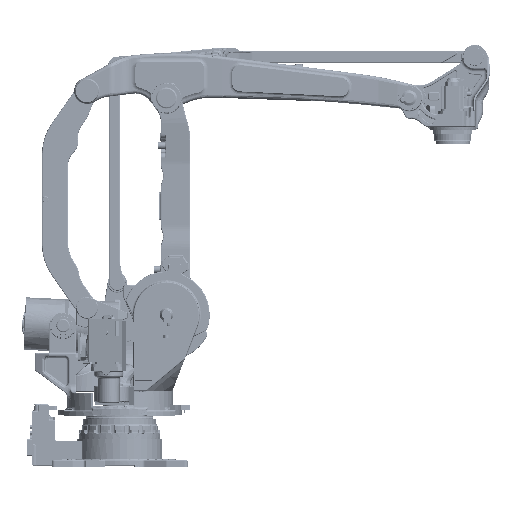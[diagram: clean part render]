
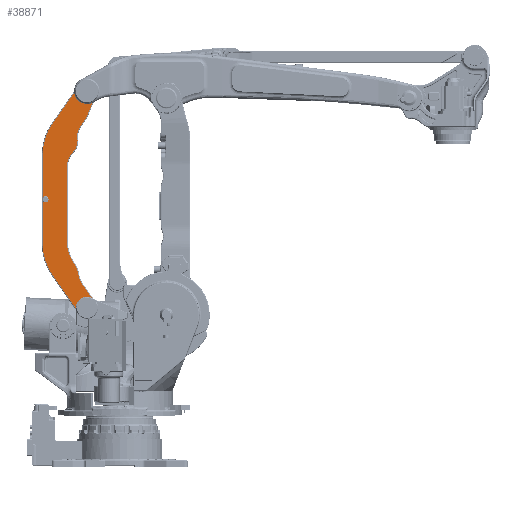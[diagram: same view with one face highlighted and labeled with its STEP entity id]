
A CAD part, front view. The second image highlights one B-rep face of the part: STEP entity #38871.
In plain terms, the highlighted planar face has unit normal (0, -1, 0).
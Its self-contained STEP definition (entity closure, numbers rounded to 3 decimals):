
#24446=LINE('',#293470,#31450);
#24447=LINE('',#293474,#31451);
#24448=LINE('',#293475,#31452);
#24449=LINE('',#293479,#31453);
#24450=LINE('',#293483,#31454);
#24451=LINE('',#293487,#31455);
#24452=LINE('',#293497,#31456);
#24453=LINE('',#293501,#31457);
#24454=LINE('',#293505,#31458);
#24455=LINE('',#293509,#31459);
#31450=VECTOR('',#182117,1.);
#31451=VECTOR('',#182120,1.);
#31452=VECTOR('',#182121,1.);
#31453=VECTOR('',#182124,1.);
#31454=VECTOR('',#182127,1.);
#31455=VECTOR('',#182130,1.);
#31456=VECTOR('',#182139,1.);
#31457=VECTOR('',#182142,1.);
#31458=VECTOR('',#182145,1.);
#31459=VECTOR('',#182148,1.);
#38871=ADVANCED_FACE('',(#48841),#43140,.F.);
#43140=PLANE('',#152239);
#48841=FACE_OUTER_BOUND('',#57070,.T.);
#57070=EDGE_LOOP('',(#86979,#86980,#86981,#86982,#86983,#86984,#86985,#86986,
#86987,#86988,#86989,#86990,#86991,#86992,#86993,#86994,#86995,#86996,#86997,
#86998,#86999,#87000,#87001,#87002));
#86979=ORIENTED_EDGE('',*,*,#126979,.T.);
#86980=ORIENTED_EDGE('',*,*,#126980,.T.);
#86981=ORIENTED_EDGE('',*,*,#126981,.F.);
#86982=ORIENTED_EDGE('',*,*,#126982,.T.);
#86983=ORIENTED_EDGE('',*,*,#126983,.T.);
#86984=ORIENTED_EDGE('',*,*,#126978,.T.);
#86985=ORIENTED_EDGE('',*,*,#126984,.T.);
#86986=ORIENTED_EDGE('',*,*,#126985,.T.);
#86987=ORIENTED_EDGE('',*,*,#126986,.T.);
#86988=ORIENTED_EDGE('',*,*,#126987,.T.);
#86989=ORIENTED_EDGE('',*,*,#126988,.T.);
#86990=ORIENTED_EDGE('',*,*,#126989,.T.);
#86991=ORIENTED_EDGE('',*,*,#126990,.F.);
#86992=ORIENTED_EDGE('',*,*,#126991,.T.);
#86993=ORIENTED_EDGE('',*,*,#126992,.T.);
#86994=ORIENTED_EDGE('',*,*,#126993,.T.);
#86995=ORIENTED_EDGE('',*,*,#126994,.T.);
#86996=ORIENTED_EDGE('',*,*,#126995,.T.);
#86997=ORIENTED_EDGE('',*,*,#126996,.T.);
#86998=ORIENTED_EDGE('',*,*,#126997,.T.);
#86999=ORIENTED_EDGE('',*,*,#126998,.T.);
#87000=ORIENTED_EDGE('',*,*,#126999,.T.);
#87001=ORIENTED_EDGE('',*,*,#127000,.T.);
#87002=ORIENTED_EDGE('',*,*,#127001,.F.);
#109245=VERTEX_POINT('',#293453);
#109248=VERTEX_POINT('',#293462);
#109249=VERTEX_POINT('',#293466);
#109250=VERTEX_POINT('',#293467);
#109251=VERTEX_POINT('',#293469);
#109252=VERTEX_POINT('',#293471);
#109253=VERTEX_POINT('',#293473);
#109254=VERTEX_POINT('',#293476);
#109255=VERTEX_POINT('',#293478);
#109256=VERTEX_POINT('',#293480);
#109257=VERTEX_POINT('',#293482);
#109258=VERTEX_POINT('',#293484);
#109259=VERTEX_POINT('',#293486);
#109260=VERTEX_POINT('',#293488);
#109261=VERTEX_POINT('',#293490);
#109262=VERTEX_POINT('',#293492);
#109263=VERTEX_POINT('',#293494);
#109264=VERTEX_POINT('',#293496);
#109265=VERTEX_POINT('',#293498);
#109266=VERTEX_POINT('',#293500);
#109267=VERTEX_POINT('',#293502);
#109268=VERTEX_POINT('',#293504);
#109269=VERTEX_POINT('',#293506);
#109270=VERTEX_POINT('',#293508);
#126978=EDGE_CURVE('',#109245,#109248,#139376,.T.);
#126979=EDGE_CURVE('',#109249,#109250,#139377,.T.);
#126980=EDGE_CURVE('',#109250,#109251,#139378,.T.);
#126981=EDGE_CURVE('',#109252,#109251,#24446,.T.);
#126982=EDGE_CURVE('',#109252,#109253,#139379,.T.);
#126983=EDGE_CURVE('',#109253,#109245,#24447,.T.);
#126984=EDGE_CURVE('',#109248,#109254,#24448,.T.);
#126985=EDGE_CURVE('',#109254,#109255,#139380,.T.);
#126986=EDGE_CURVE('',#109255,#109256,#24449,.T.);
#126987=EDGE_CURVE('',#109256,#109257,#139381,.T.);
#126988=EDGE_CURVE('',#109257,#109258,#24450,.T.);
#126989=EDGE_CURVE('',#109258,#109259,#139382,.T.);
#126990=EDGE_CURVE('',#109260,#109259,#24451,.T.);
#126991=EDGE_CURVE('',#109260,#109261,#139383,.T.);
#126992=EDGE_CURVE('',#109261,#109262,#139384,.T.);
#126993=EDGE_CURVE('',#109262,#109263,#139385,.T.);
#126994=EDGE_CURVE('',#109263,#109264,#139386,.T.);
#126995=EDGE_CURVE('',#109264,#109265,#24452,.T.);
#126996=EDGE_CURVE('',#109265,#109266,#139387,.T.);
#126997=EDGE_CURVE('',#109266,#109267,#24453,.T.);
#126998=EDGE_CURVE('',#109267,#109268,#139388,.T.);
#126999=EDGE_CURVE('',#109268,#109269,#24454,.T.);
#127000=EDGE_CURVE('',#109269,#109270,#139389,.T.);
#127001=EDGE_CURVE('',#109249,#109270,#24455,.T.);
#139376=CIRCLE('',#152224,64.);
#139377=CIRCLE('',#152226,18.);
#139378=CIRCLE('',#152227,18.);
#139379=CIRCLE('',#152228,305.);
#139380=CIRCLE('',#152229,105.);
#139381=CIRCLE('',#152230,95.);
#139382=CIRCLE('',#152231,205.);
#139383=CIRCLE('',#152232,105.);
#139384=CIRCLE('',#152233,95.);
#139385=CIRCLE('',#152234,95.);
#139386=CIRCLE('',#152235,105.);
#139387=CIRCLE('',#152236,95.);
#139388=CIRCLE('',#152237,64.);
#139389=CIRCLE('',#152238,305.);
#152224=AXIS2_PLACEMENT_3D('',#293463,#182109,#182110);
#152226=AXIS2_PLACEMENT_3D('',#293465,#182113,#182114);
#152227=AXIS2_PLACEMENT_3D('',#293468,#182115,#182116);
#152228=AXIS2_PLACEMENT_3D('',#293472,#182118,#182119);
#152229=AXIS2_PLACEMENT_3D('',#293477,#182122,#182123);
#152230=AXIS2_PLACEMENT_3D('',#293481,#182125,#182126);
#152231=AXIS2_PLACEMENT_3D('',#293485,#182128,#182129);
#152232=AXIS2_PLACEMENT_3D('',#293489,#182131,#182132);
#152233=AXIS2_PLACEMENT_3D('',#293491,#182133,#182134);
#152234=AXIS2_PLACEMENT_3D('',#293493,#182135,#182136);
#152235=AXIS2_PLACEMENT_3D('',#293495,#182137,#182138);
#152236=AXIS2_PLACEMENT_3D('',#293499,#182140,#182141);
#152237=AXIS2_PLACEMENT_3D('',#293503,#182143,#182144);
#152238=AXIS2_PLACEMENT_3D('',#293507,#182146,#182147);
#152239=AXIS2_PLACEMENT_3D('',#293510,#182149,#182150);
#182109=DIRECTION('',(0.,1.,0.));
#182110=DIRECTION('',(-0.997,0.,-0.074));
#182113=DIRECTION('',(0.,1.,0.));
#182114=DIRECTION('',(-0.833,0.,0.553));
#182115=DIRECTION('',(0.,1.,0.));
#182116=DIRECTION('',(1.,0.,0.));
#182117=DIRECTION('',(0.,0.,1.));
#182118=DIRECTION('',(0.,-1.,0.));
#182119=DIRECTION('',(-1.,0.,0.));
#182120=DIRECTION('',(0.574,0.,-0.819));
#182121=DIRECTION('',(-0.574,0.,0.819));
#182122=DIRECTION('',(0.,1.,0.));
#182123=DIRECTION('',(-0.819,0.,-0.574));
#182124=DIRECTION('',(-0.228,0.,0.974));
#182125=DIRECTION('',(0.,-1.,0.));
#182126=DIRECTION('',(0.974,0.,0.228));
#182127=DIRECTION('',(-0.574,0.,0.819));
#182128=DIRECTION('',(0.,1.,0.));
#182129=DIRECTION('',(-0.819,0.,-0.574));
#182130=DIRECTION('',(0.,0.,-1.));
#182131=DIRECTION('',(0.,1.,0.));
#182132=DIRECTION('',(-1.,0.,0.));
#182133=DIRECTION('',(0.,-1.,0.));
#182134=DIRECTION('',(0.7,0.,-0.714));
#182135=DIRECTION('',(0.,-1.,0.));
#182136=DIRECTION('',(1.,0.,0.));
#182137=DIRECTION('',(0.,1.,0.));
#182138=DIRECTION('',(-0.992,0.,-0.125));
#182139=DIRECTION('',(0.574,0.,0.819));
#182140=DIRECTION('',(0.,-1.,0.));
#182141=DIRECTION('',(0.819,0.,-0.574));
#182142=DIRECTION('',(0.382,0.,0.924));
#182143=DIRECTION('',(0.,1.,0.));
#182144=DIRECTION('',(0.599,0.,-0.801));
#182145=DIRECTION('',(-0.574,0.,-0.819));
#182146=DIRECTION('',(0.,-1.,0.));
#182147=DIRECTION('',(-0.819,0.,0.574));
#182148=DIRECTION('',(0.,0.,1.));
#182149=DIRECTION('',(0.,1.,0.));
#182150=DIRECTION('',(1.,0.,0.));
#293453=CARTESIAN_POINT('',(-252.074,-113.5,915.353));
#293462=CARTESIAN_POINT('',(-161.967,-113.5,978.446));
#293463=CARTESIAN_POINT('',(-188.25,-113.5,920.092));
#293465=CARTESIAN_POINT('',(-428.25,-113.5,1545.092));
#293466=CARTESIAN_POINT('',(-443.25,-113.5,1555.042));
#293467=CARTESIAN_POINT('',(-410.25,-113.5,1545.092));
#293468=CARTESIAN_POINT('',(-428.25,-113.5,1545.092));
#293469=CARTESIAN_POINT('',(-443.25,-113.5,1535.142));
#293470=CARTESIAN_POINT('',(-443.25,-113.5,1284.546));
#293471=CARTESIAN_POINT('',(-443.25,-113.5,1284.546));
#293472=CARTESIAN_POINT('',(-138.25,-113.5,1284.546));
#293473=CARTESIAN_POINT('',(-388.091,-113.5,1109.605));
#293474=CARTESIAN_POINT('',(-388.091,-113.5,1109.605));
#293475=CARTESIAN_POINT('',(-161.967,-113.5,978.446));
#293476=CARTESIAN_POINT('',(-218.187,-113.5,1058.736));
#293477=CARTESIAN_POINT('',(-132.176,-113.5,1118.961));
#293478=CARTESIAN_POINT('',(-234.402,-113.5,1094.987));
#293479=CARTESIAN_POINT('',(-234.402,-113.5,1094.987));
#293480=CARTESIAN_POINT('',(-244.051,-113.5,1136.132));
#293481=CARTESIAN_POINT('',(-336.542,-113.5,1114.441));
#293482=CARTESIAN_POINT('',(-258.722,-113.5,1168.93));
#293483=CARTESIAN_POINT('',(-258.722,-113.5,1168.93));
#293484=CARTESIAN_POINT('',(-266.176,-113.5,1179.575));
#293485=CARTESIAN_POINT('',(-98.25,-113.5,1297.158));
#293486=CARTESIAN_POINT('',(-303.25,-113.5,1297.158));
#293487=CARTESIAN_POINT('',(-303.25,-113.5,1740.263));
#293488=CARTESIAN_POINT('',(-303.25,-113.5,1740.263));
#293489=CARTESIAN_POINT('',(-198.25,-113.5,1740.263));
#293490=CARTESIAN_POINT('',(-271.75,-113.5,1815.248));
#293491=CARTESIAN_POINT('',(-338.25,-113.5,1883.092));
#293492=CARTESIAN_POINT('',(-243.25,-113.5,1883.092));
#293493=CARTESIAN_POINT('',(-338.25,-113.5,1883.092));
#293494=CARTESIAN_POINT('',(-243.99,-113.5,1894.931));
#293495=CARTESIAN_POINT('',(-139.809,-113.5,1908.017));
#293496=CARTESIAN_POINT('',(-225.82,-113.5,1968.243));
#293497=CARTESIAN_POINT('',(-225.82,-113.5,1968.243));
#293498=CARTESIAN_POINT('',(-198.636,-113.5,2007.065));
#293499=CARTESIAN_POINT('',(-276.456,-113.5,2061.554));
#293500=CARTESIAN_POINT('',(-188.676,-113.5,2025.228));
#293501=CARTESIAN_POINT('',(-188.676,-113.5,2025.228));
#293502=CARTESIAN_POINT('',(-149.943,-113.5,2118.821));
#293503=CARTESIAN_POINT('',(-188.25,-113.5,2170.092));
#293504=CARTESIAN_POINT('',(-252.074,-113.5,2174.831));
#293505=CARTESIAN_POINT('',(-252.074,-113.5,2174.831));
#293506=CARTESIAN_POINT('',(-388.091,-113.5,1980.578));
#293507=CARTESIAN_POINT('',(-138.25,-113.5,1805.637));
#293508=CARTESIAN_POINT('',(-443.25,-113.5,1805.637));
#293509=CARTESIAN_POINT('',(-443.25,-113.5,1555.042));
#293510=CARTESIAN_POINT('',(-188.25,-113.5,920.092));
